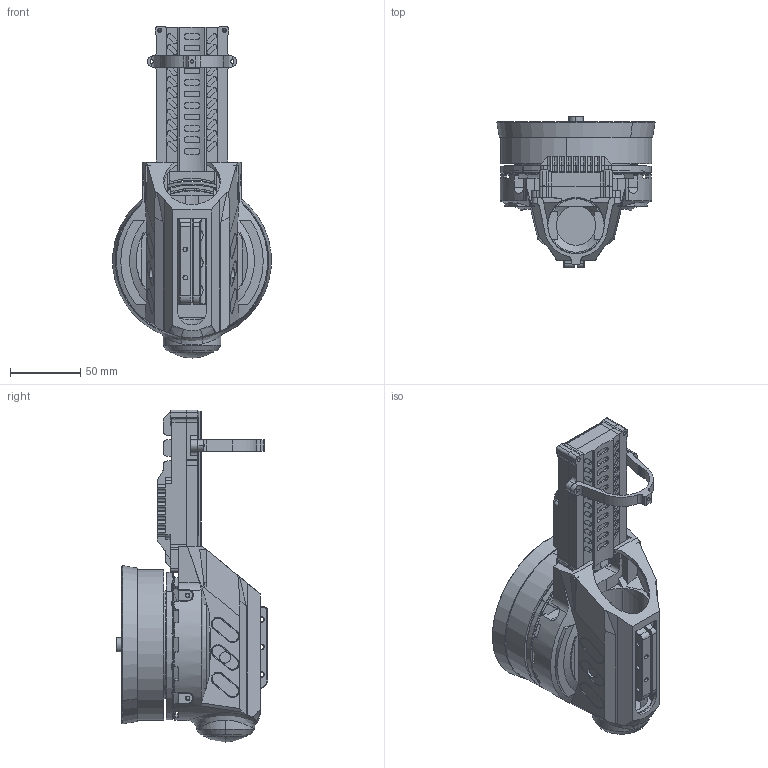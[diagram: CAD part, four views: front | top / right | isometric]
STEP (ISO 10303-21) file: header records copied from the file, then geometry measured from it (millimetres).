
FILE_DESCRIPTION (( 'STEP AP214' ), '1' );
FILE_NAME ('A10ÅäA8µçµ÷.STEP', '2024-07-18T07:27:40', ( '' ), ( '' ), 'SwSTEP 2.0', 'SolidWorks 2022', '' );
FILE_SCHEMA (( 'AUTOMOTIVE_DESIGN' ));
Length unit declared in the file: millimetre
Products named in the file (1): A10配A8电调
Bounding box: 112.36 x 107.4 x 235.54 mm (x, y, z)
Volume: 667223.3 mm3; surface area: 263199.1 mm2
Topology: 57 solids, 60 shells, 3276 faces, 9044 edges, 5875 vertices
Faces by surface type: plane 1461, cylinder 1175, cone 233, bspline 187, torus 153, sphere 67
Entity records: 154914 total; most frequent: CARTESIAN_POINT 37034, ORIENTED_EDGE 17706, DIRECTION 16329, EDGE_CURVE 8853, AXIS2_PLACEMENT_3D 5903, VERTEX_POINT 5771, LINE 4523, VECTOR 4523
